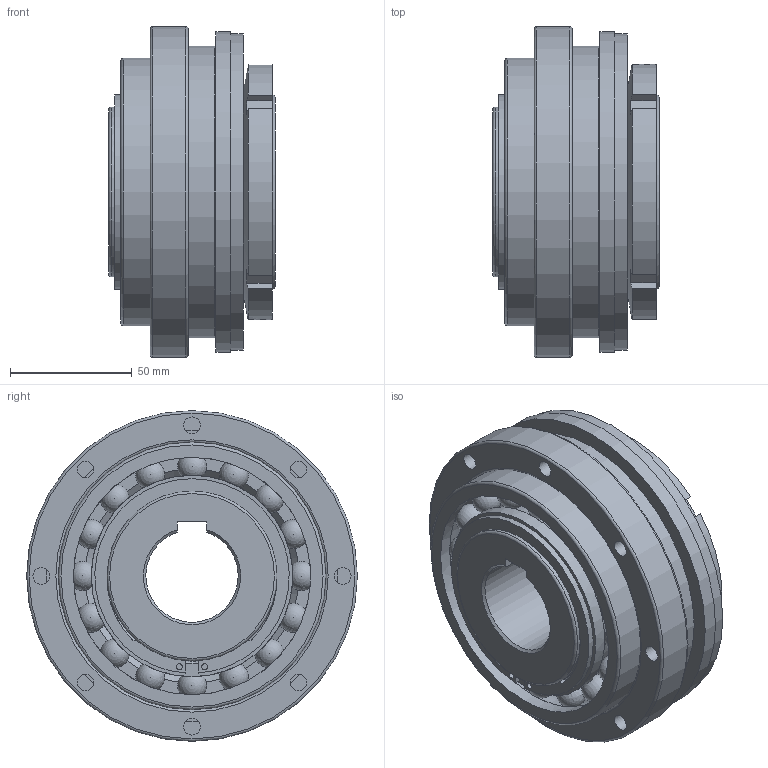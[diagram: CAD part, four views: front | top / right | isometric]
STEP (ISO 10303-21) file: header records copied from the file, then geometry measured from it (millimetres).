
FILE_DESCRIPTION( ( 'Unknown' ), '1' );
FILE_NAME( 'F:/JAKOB-STEP+IGES-Dateien/STEP-Dateien/SKW/SKW 800.stp', 'Unknown', ( 'Unknown' ), ( 'Unknown' ), 'PSStep 10.1', 'Unknown', ' ' );
FILE_SCHEMA( ( 'AUTOMOTIVE_DESIGN { 1 0 10303 214 1 1 1 1 }' ) );
Length unit declared in the file: millimetre
Products named in the file (1): 27920754
Bounding box: 68.5 x 136 x 136 mm (x, y, z)
Volume: 618997.6 mm3; surface area: 106078.2 mm2
Topology: 1 solids, 4 shells, 169 faces, 548 edges, 365 vertices
Faces by surface type: plane 60, torus 44, cylinder 42, sphere 16, cone 7
Full cylindrical faces by diameter (mm): 2.5 x2, 4.2 x3, 6.8 x8, 67 x1, 69.8 x1, 70 x2, 80 x2, 80.3 x1, 82.8 x2, 97.6 x2, 110 x2, 116 x2, 120 x1, 130 x1, 132 x1, 136 x1
Entity records: 8182 total; most frequent: CARTESIAN_POINT 2732, ORIENTED_EDGE 826, DIRECTION 794, EDGE_CURVE 413, AXIS2_PLACEMENT_3D 351, VERTEX_POINT 297, EDGE_LOOP 272, FACE_OUTER_BOUND 197
